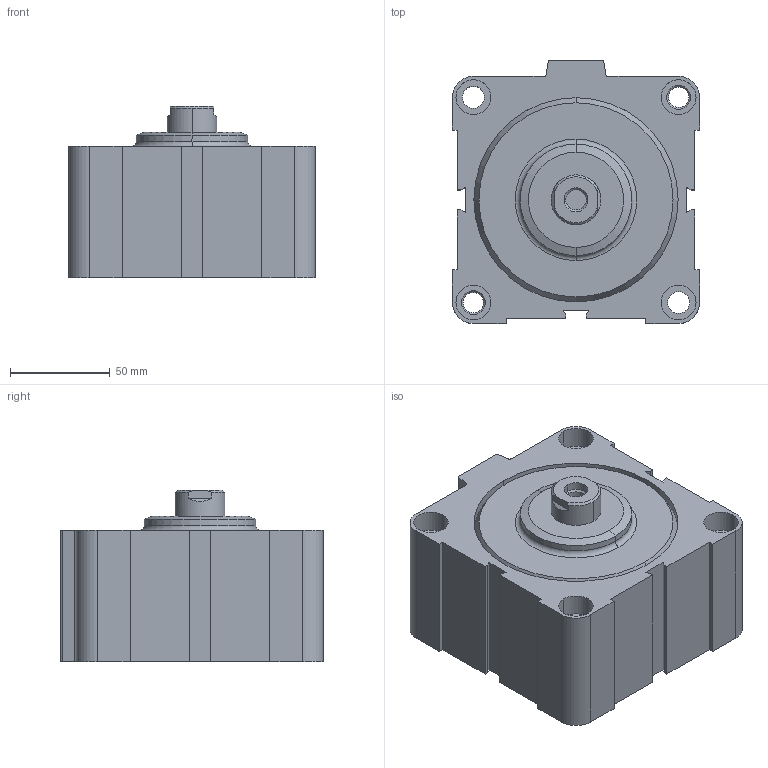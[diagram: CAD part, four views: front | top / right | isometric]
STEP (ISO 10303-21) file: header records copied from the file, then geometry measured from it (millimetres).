
FILE_DESCRIPTION((''),'2;1');
FILE_NAME('0822010691_ASM','2015-07-01T',('vol1hc'),(''),'PRO/ENGINEER BY PARAMETRIC TECHNOLOGY CORPORATION, 2012421','PRO/ENGINEER BY PARAMETRIC TECHNOLOGY CORPORATION, 2012421','');
FILE_SCHEMA(('CONFIG_CONTROL_DESIGN','SHAPE_APPEARANCE_LAYERS_GROUPS'));
Length unit declared in the file: millimetre
Products named in the file (3): 0822010691-A; 0822010691-B; 0822010691_ASM
Assembly tree (2 placements, depth 2):
  0822010691_ASM
    0822010691-A
    0822010691-B
Bounding box: 124 x 132 x 86 mm (x, y, z)
Volume: 879916.2 mm3; surface area: 148865.9 mm2
Topology: 2 solids, 2 shells, 159 faces, 372 edges, 238 vertices
Faces by surface type: plane 67, cylinder 60, cone 26, torus 6
Entity records: 4726 total; most frequent: DIRECTION 854, CARTESIAN_POINT 822, ORIENTED_EDGE 744, EDGE_CURVE 372, AXIS2_PLACEMENT_3D 324, VERTEX_POINT 238, VECTOR 206, LINE 206
